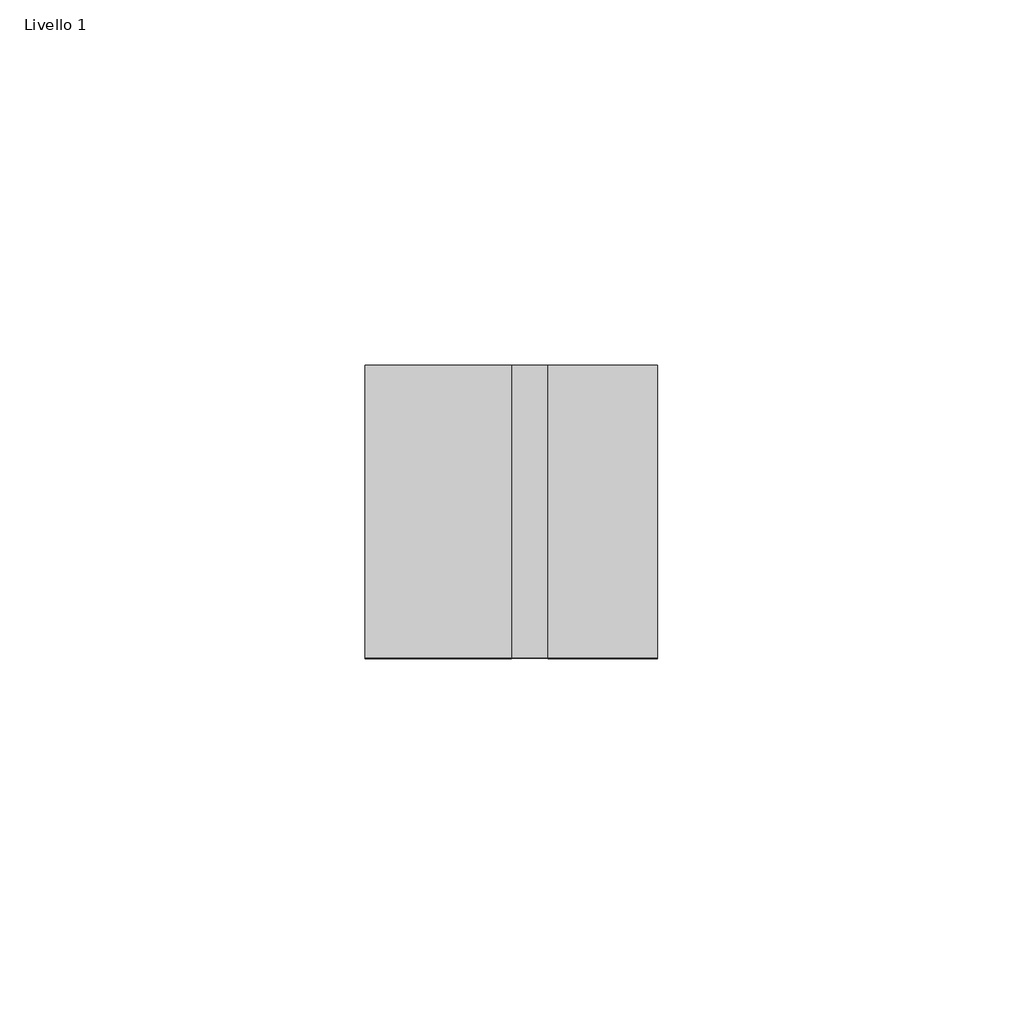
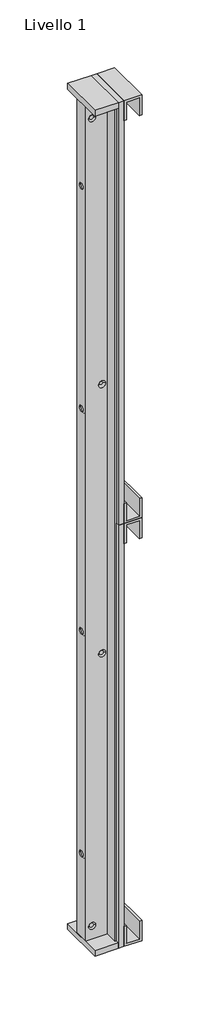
# One storey, incomplete: 3 proxies.
"""IFC4 building model written with IfcOpenShell, lengths in millimetres."""

from ifc_helpers import new_model, si_unit, origin, place, context, project, spatial, transform, mapped, element, save
from components import generic_models_ecafa644, generic_models_5072f9b4

model = new_model("IFC4")

# Units and contexts
model_context = context("Model", 3, world=origin())
ifc_project = project(units=[si_unit("LENGTHUNIT", "METRE", prefix="MILLI")], contexts=[model_context])

# Site, building, storey
site = spatial("IfcSite", under=ifc_project)
building = spatial("IfcBuilding", under=site)
storey = spatial("IfcBuildingStorey", under=building, Name="Livello 1", Elevation=0.0)

# Proxies
placement = place(None, origin())
generic_models_shape = generic_models_ecafa644(model_context)
element("IfcBuildingElementProxy", 1, Name="LVIB-MEXX-051", ObjectType="LVIB-MEXX-051", at=placement, inside=storey, context=model_context, shape_type="MappedRepresentation", body=[
    mapped(generic_models_shape, transform((39.797102, -20.0, -378.3950617), x_axis=(1.0, 0.0, 0.0), y_axis=(0.0, 0.0, 1.0), z_axis=(0.0, -1.0, 0.0))),
])
element("IfcBuildingElementProxy", 2, Name="LVIB-MEXX-051", ObjectType="LVIB-MEXX-051", at=placement, inside=storey, context=model_context, shape_type="MappedRepresentation", body=[
    mapped(generic_models_shape, transform((39.797102, -20.0, 1.6049383), x_axis=(1.0, 0.0, 0.0), y_axis=(0.0, 0.0, 1.0), z_axis=(0.0, -1.0, 0.0))),
])
generic_models_2_shape = generic_models_5072f9b4(model_context)
element("IfcBuildingElementProxy", 3, Name="LVIB-MEXX-001", ObjectType="LVIB-MEXX-001", at=placement, inside=storey, context=model_context, shape_type="MappedRepresentation", body=[
    mapped(generic_models_2_shape, transform((34.797102, -17.5, -373.3950617), x_axis=(1.0, 0.0, 0.0), y_axis=(0.0, 0.0, 1.0), z_axis=(0.0, -1.0, 0.0))),
])

save(model, "model.ifc")
